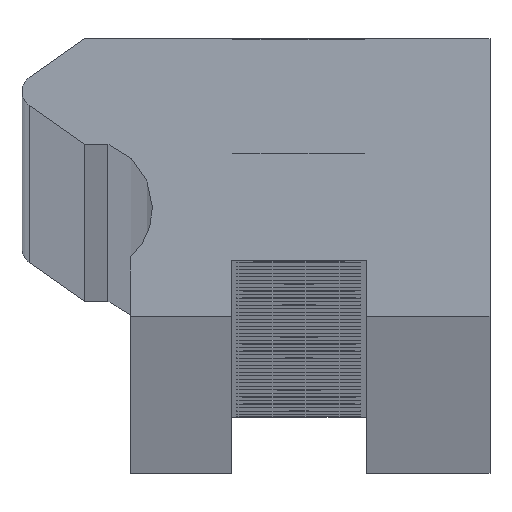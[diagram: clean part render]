
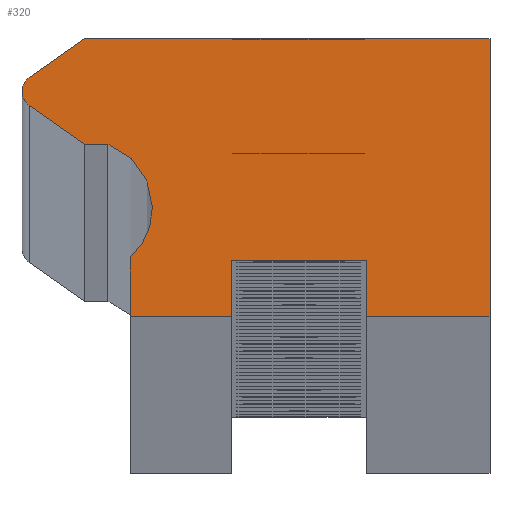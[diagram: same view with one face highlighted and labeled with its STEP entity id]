
A CAD part, top view. The second image highlights one B-rep face of the part: STEP entity #320.
In plain terms, the highlighted planar face has unit normal (0, 0, 1).
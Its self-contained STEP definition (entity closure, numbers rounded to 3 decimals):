
#320=ADVANCED_FACE('',(#951),#952,.T.);
#951=FACE_OUTER_BOUND('',#1583,.T.);
#952=PLANE('',#1584);
#1583=EDGE_LOOP('',(#3486,#3487,#3488,#3489,#3490,#3491,#3492,#3493,#3494,#3495,#3496,#3497,#3498,#3499,#3500));
#1584=AXIS2_PLACEMENT_3D('',#3501,#3502,#3503);
#3486=ORIENTED_EDGE('',*,*,#4082,.F.);
#3487=ORIENTED_EDGE('',*,*,#4117,.F.);
#3488=ORIENTED_EDGE('',*,*,#4114,.F.);
#3489=ORIENTED_EDGE('',*,*,#4111,.F.);
#3490=ORIENTED_EDGE('',*,*,#4108,.F.);
#3491=ORIENTED_EDGE('',*,*,#3523,.F.);
#3492=ORIENTED_EDGE('',*,*,#4107,.F.);
#3493=ORIENTED_EDGE('',*,*,#4103,.F.);
#3494=ORIENTED_EDGE('',*,*,#4100,.F.);
#3495=ORIENTED_EDGE('',*,*,#4097,.F.);
#3496=ORIENTED_EDGE('',*,*,#3529,.F.);
#3497=ORIENTED_EDGE('',*,*,#4095,.F.);
#3498=ORIENTED_EDGE('',*,*,#4092,.F.);
#3499=ORIENTED_EDGE('',*,*,#4089,.F.);
#3500=ORIENTED_EDGE('',*,*,#4086,.F.);
#3501=CARTESIAN_POINT('',(-0.752,6.391,4000.0));
#3502=DIRECTION('',(0.0,0.0,1.0));
#3503=DIRECTION('',(1.0,0.0,0.0));
#3523=EDGE_CURVE('',#4119,#4122,#4123,.T.);
#3529=EDGE_CURVE('',#4132,#4128,#4134,.T.);
#4082=EDGE_CURVE('',#5055,#5056,#5057,.T.);
#4086=EDGE_CURVE('',#5056,#5063,#5064,.T.);
#4089=EDGE_CURVE('',#5063,#5068,#5069,.T.);
#4092=EDGE_CURVE('',#5068,#5073,#5074,.T.);
#4095=EDGE_CURVE('',#5073,#4132,#5078,.T.);
#4097=EDGE_CURVE('',#4128,#5080,#5081,.T.);
#4100=EDGE_CURVE('',#5080,#5085,#5086,.T.);
#4103=EDGE_CURVE('',#5085,#5090,#5091,.T.);
#4107=EDGE_CURVE('',#5090,#4119,#5096,.T.);
#4108=EDGE_CURVE('',#4122,#5097,#5098,.T.);
#4111=EDGE_CURVE('',#5097,#5102,#5103,.T.);
#4114=EDGE_CURVE('',#5102,#5107,#5108,.T.);
#4117=EDGE_CURVE('',#5107,#5055,#5112,.T.);
#4119=VERTEX_POINT('',#5114);
#4122=VERTEX_POINT('',#5118);
#4123=CIRCLE('',#5119,0.76);
#4128=VERTEX_POINT('',#5125);
#4132=VERTEX_POINT('',#5130);
#4134=CIRCLE('',#5133,3.0);
#5055=VERTEX_POINT('',#6238);
#5056=VERTEX_POINT('',#6239);
#5057=LINE('',#6240,#6241);
#5063=VERTEX_POINT('',#6250);
#5064=LINE('',#6251,#6252);
#5068=VERTEX_POINT('',#6258);
#5069=LINE('',#6259,#6260);
#5073=VERTEX_POINT('',#6266);
#5074=LINE('',#6267,#6268);
#5078=LINE('',#6274,#6275);
#5080=VERTEX_POINT('',#6278);
#5081=CIRCLE('',#6279,3.0);
#5085=VERTEX_POINT('',#6284);
#5086=LINE('',#6285,#6286);
#5090=VERTEX_POINT('',#6292);
#5091=LINE('',#6293,#6294);
#5096=CIRCLE('',#6301,0.76);
#5097=VERTEX_POINT('',#6302);
#5098=LINE('',#6303,#6304);
#5102=VERTEX_POINT('',#6310);
#5103=LINE('',#6311,#6312);
#5107=VERTEX_POINT('',#6318);
#5108=LINE('',#6319,#6320);
#5112=LINE('',#6326,#6327);
#5114=CARTESIAN_POINT('',(-12.305,10.0,4000.0));
#5118=CARTESIAN_POINT('',(-11.981,10.623,4000.0));
#5119=AXIS2_PLACEMENT_3D('',#6331,#6332,#6333);
#5125=CARTESIAN_POINT('',(-6.506,4.83,4000.0));
#5130=CARTESIAN_POINT('',(-7.5,2.6,4000.0));
#5133=AXIS2_PLACEMENT_3D('',#6343,#6344,#6345);
#6238=CARTESIAN_POINT('',(3.0,0.0,4000.0));
#6239=CARTESIAN_POINT('',(3.0,2.5,4000.0));
#6240=CARTESIAN_POINT('',(3.0,2.5,4000.0));
#6241=VECTOR('',#7634,1.0);
#6250=CARTESIAN_POINT('',(-3.0,2.5,4000.0));
#6251=CARTESIAN_POINT('',(-3.0,2.5,4000.0));
#6252=VECTOR('',#7638,1.0);
#6258=CARTESIAN_POINT('',(-3.0,0.0,4000.0));
#6259=CARTESIAN_POINT('',(-3.0,0.0,4000.0));
#6260=VECTOR('',#7641,1.0);
#6266=CARTESIAN_POINT('',(-7.5,0.0,4000.0));
#6267=CARTESIAN_POINT('',(-7.5,0.0,4000.0));
#6268=VECTOR('',#7644,1.0);
#6274=CARTESIAN_POINT('',(-7.5,2.6,4000.0));
#6275=VECTOR('',#7647,1.0);
#6278=CARTESIAN_POINT('',(-8.482,7.65,4000.0));
#6279=AXIS2_PLACEMENT_3D('',#7649,#7650,#7651);
#6284=CARTESIAN_POINT('',(-9.514,7.65,4000.0));
#6285=CARTESIAN_POINT('',(-9.514,7.65,4000.0));
#6286=VECTOR('',#7656,1.0);
#6292=CARTESIAN_POINT('',(-11.981,9.377,4000.0));
#6293=CARTESIAN_POINT('',(-11.981,9.377,4000.0));
#6294=VECTOR('',#7659,1.0);
#6301=AXIS2_PLACEMENT_3D('',#7665,#7666,#7667);
#6302=CARTESIAN_POINT('',(-9.514,12.35,4000.0));
#6303=CARTESIAN_POINT('',(-9.514,12.35,4000.0));
#6304=VECTOR('',#7668,1.0);
#6310=CARTESIAN_POINT('',(8.5,12.35,4000.0));
#6311=CARTESIAN_POINT('',(8.5,12.35,4000.0));
#6312=VECTOR('',#7671,1.0);
#6318=CARTESIAN_POINT('',(8.5,0.0,4000.0));
#6319=CARTESIAN_POINT('',(8.5,0.0,4000.0));
#6320=VECTOR('',#7674,1.0);
#6326=CARTESIAN_POINT('',(3.0,0.0,4000.0));
#6327=VECTOR('',#7677,1.0);
#6331=CARTESIAN_POINT('',(-11.545,10.0,4000.0));
#6332=DIRECTION('',(0.0,0.0,-1.0));
#6333=DIRECTION('',(1.0,0.0,0.0));
#6343=CARTESIAN_POINT('',(-9.506,4.83,4000.0));
#6344=DIRECTION('',(0.0,0.0,1.0));
#6345=DIRECTION('',(1.0,0.0,0.0));
#7634=DIRECTION('',(0.0,1.0,0.0));
#7638=DIRECTION('',(-1.0,-0.0,-0.0));
#7641=DIRECTION('',(-0.0,-1.0,-0.0));
#7644=DIRECTION('',(-1.0,-0.0,-0.0));
#7647=DIRECTION('',(0.0,1.0,0.0));
#7649=CARTESIAN_POINT('',(-9.506,4.83,4000.0));
#7650=DIRECTION('',(0.0,0.0,1.0));
#7651=DIRECTION('',(1.0,0.0,0.0));
#7656=DIRECTION('',(-1.0,-0.0,-0.0));
#7659=DIRECTION('',(-0.819,0.574,0.0));
#7665=CARTESIAN_POINT('',(-11.545,10.0,4000.0));
#7666=DIRECTION('',(0.0,0.0,-1.0));
#7667=DIRECTION('',(1.0,0.0,0.0));
#7668=DIRECTION('',(0.819,0.574,0.0));
#7671=DIRECTION('',(1.0,0.0,0.0));
#7674=DIRECTION('',(-0.0,-1.0,-0.0));
#7677=DIRECTION('',(-1.0,-0.0,-0.0));
